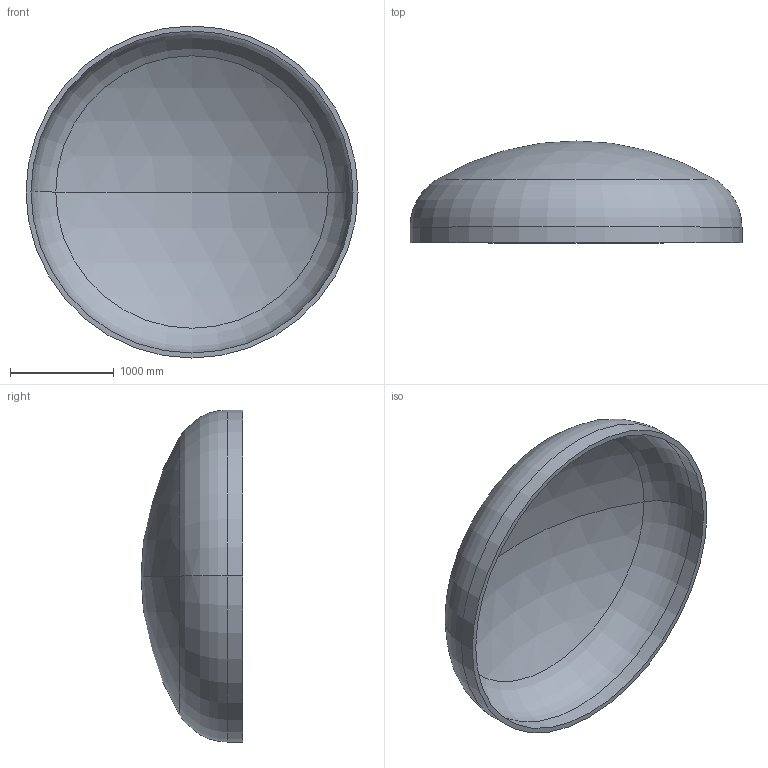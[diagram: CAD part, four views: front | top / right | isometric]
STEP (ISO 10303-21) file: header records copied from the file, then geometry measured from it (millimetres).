
FILE_DESCRIPTION (( 'STEP AP203' ), '1' );
FILE_NAME ('DIN 28013 Korbbogenform_-_Boden DIN 28013 - 3200 x 150 - I - s=48.step', '2016-07-01T18:41:24', ( '' ), ( '' ), 'SwSTEP 2.0', 'SolidWorks 2013', '' );
FILE_SCHEMA (( 'CONFIG_CONTROL_DESIGN' ));
Length unit declared in the file: millimetre
Products named in the file (1): DIN 28013 Korbbogenform_-_Boden DIN 28013 - 3200 x 150 - I - s=48
Bounding box: 3200 x 981.19 x 3200 mm (x, y, z)
Volume: 594880393.5 mm3; surface area: 25266810.4 mm2
Topology: 1 solids, 1 shells, 13 faces, 24 edges, 14 vertices
Faces by surface type: torus 4, cylinder 4, sphere 4, plane 1
Entity records: 407 total; most frequent: DIRECTION 72, CARTESIAN_POINT 52, ORIENTED_EDGE 48, AXIS2_PLACEMENT_3D 34, EDGE_CURVE 24, CIRCLE 20, VERTEX_POINT 14, EDGE_LOOP 14
